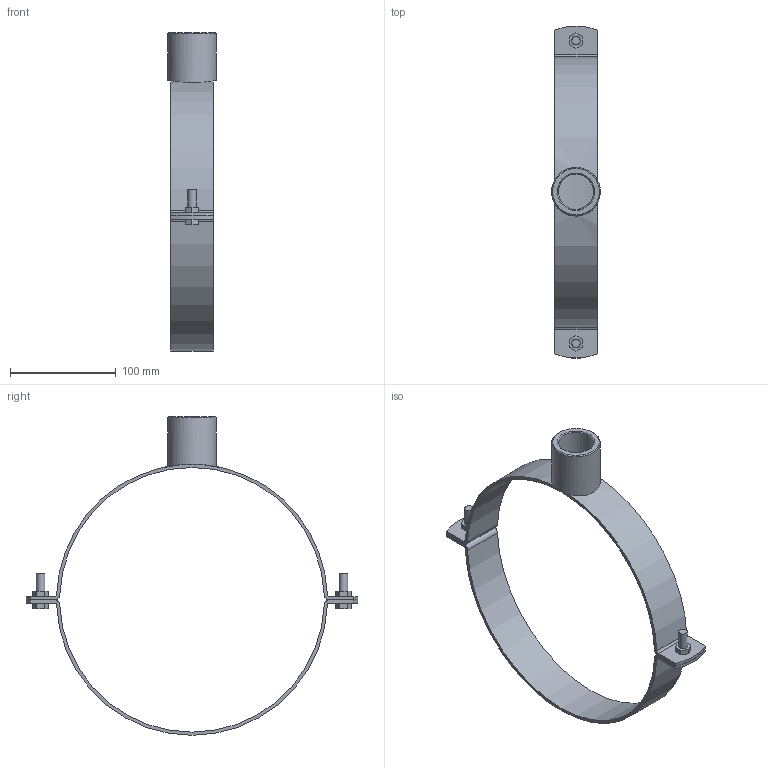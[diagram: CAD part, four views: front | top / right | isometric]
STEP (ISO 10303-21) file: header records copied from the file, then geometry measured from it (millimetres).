
FILE_DESCRIPTION(/* description */ (''),/* implementation_level */ '2;1');
FILE_NAME(/* name */ 'H:\Geberit-Teile\Export\Rohrschelle G1\stp\371840.stp',/* time_stamp */ '2018-06-13T08:49:24+02:00',/* author */ ('seihe2'),/* organization */ (''),/* preprocessor_version */ 'ST-DEVELOPER v15.2',/* originating_system */ 'Autodesk Inventor 2014',/* authorisation */ '');
FILE_SCHEMA (('AUTOMOTIVE_DESIGN { 1 0 10303 214 3 1 1 }'));
Length unit declared in the file: millimetre
Products named in the file (1): 371840
Bounding box: 46 x 313.66 x 301 mm (x, y, z)
Volume: 148824.9 mm3; surface area: 90793.7 mm2
Topology: 1 solids, 1 shells, 71 faces, 176 edges, 116 vertices
Faces by surface type: plane 43, cylinder 26, cone 2
Full cylindrical faces by diameter (mm): 8 x4, 33.249 x1, 46 x1
Entity records: 2284 total; most frequent: CARTESIAN_POINT 494, DIRECTION 352, ORIENTED_EDGE 332, EDGE_CURVE 166, AXIS2_PLACEMENT_3D 120, VERTEX_POINT 114, LINE 112, VECTOR 112
